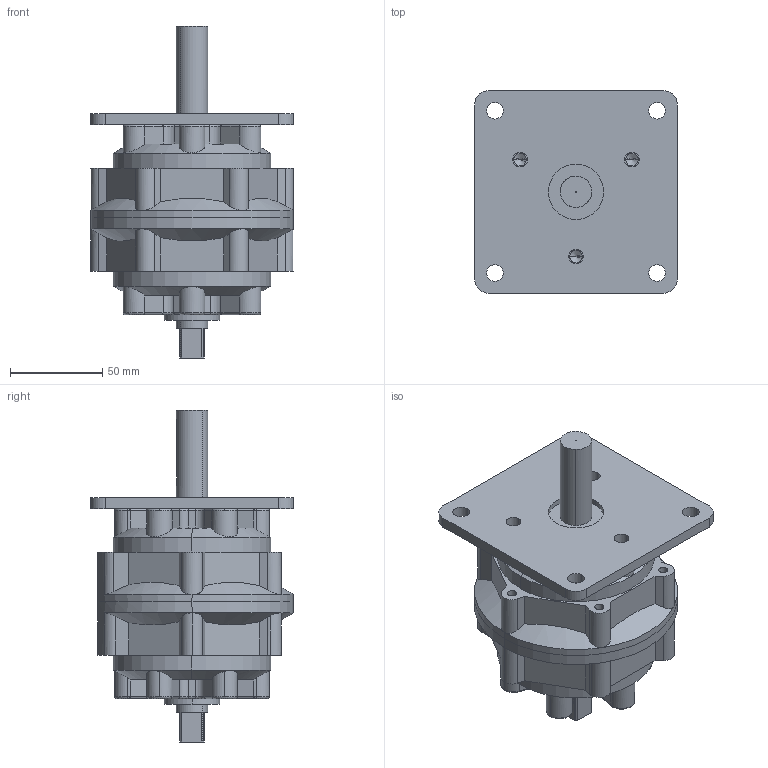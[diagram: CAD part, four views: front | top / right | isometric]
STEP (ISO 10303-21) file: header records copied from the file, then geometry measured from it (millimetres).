
FILE_DESCRIPTION (( 'STEP AP203' ), '1' );
FILE_NAME ('PRN150#-#-#-P.STEP', '2016-01-14T16:42:20', ( '' ), ( '' ), 'SwSTEP 2.0', 'SolidWorks 2014', '' );
FILE_SCHEMA (( 'CONFIG_CONTROL_DESIGN' ));
Length unit declared in the file: millimetre
Products named in the file (6): PRN150 (1); PRN150#-#-#-P; mark-PRN150; PRN150 (2); PRN150 (3); PRN150#-#-#-P (4)
Assembly tree (5 placements, depth 2):
  PRN150#-#-#-P
    PRN150 (2)
    PRN150 (1)
    PRN150 (3)
    mark-PRN150
    PRN150#-#-#-P (4)
Bounding box: 110 x 110 x 180 mm (x, y, z)
Volume: 697592.9 mm3; surface area: 122497.6 mm2
Topology: 11 solids, 11 shells, 511 faces, 1314 edges, 820 vertices
Faces by surface type: cylinder 226, plane 178, torus 53, cone 46, bspline 8
Entity records: 17063 total; most frequent: CARTESIAN_POINT 3865, DIRECTION 2721, ORIENTED_EDGE 2572, EDGE_CURVE 1286, AXIS2_PLACEMENT_3D 1038, VERTEX_POINT 820, VECTOR 645, LINE 645
